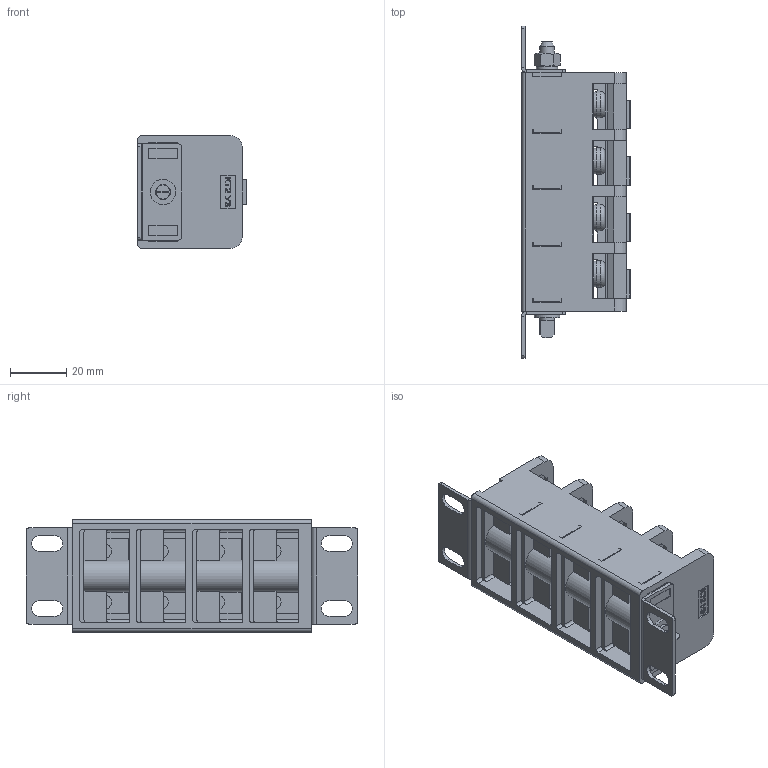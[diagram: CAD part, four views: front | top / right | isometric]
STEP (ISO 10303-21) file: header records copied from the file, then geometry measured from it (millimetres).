
FILE_DESCRIPTION(('STEP AP214'), '1');
FILE_NAME('ÁÇÍ28-16Ï63 (4 çàæèìà â áëîêå)', '2024-09-16T06:24:01', (''), (''), 'ASCON STEP Converter 1.6', 'ASCON Math Kernel', '');
FILE_SCHEMA(('AUTOMOTIVE_DESIGN { 1 0 10303 214 3 1 1}'));
Length unit declared in the file: millimetre
Bounding box: 38.5 x 117.5 x 40 mm (x, y, z)
Volume: 59014.2 mm3; surface area: 45387.6 mm2
Topology: 1 solids, 1 shells, 5622 faces, 16087 edges, 10684 vertices
Faces by surface type: cylinder 3573, plane 2027, cone 14, torus 8
Full cylindrical faces by diameter (mm): 5 x10, 5.3 x1, 5.5 x7, 7.5 x4, 9 x9, 11.5 x10
Entity records: 232838 total; most frequent: DIRECTION 34464, CARTESIAN_POINT 33813, ORIENTED_EDGE 32052, EDGE_CURVE 16026, AXIS2_PLACEMENT_3D 12867, VERTEX_POINT 10684, LINE 8730, VECTOR 8730
